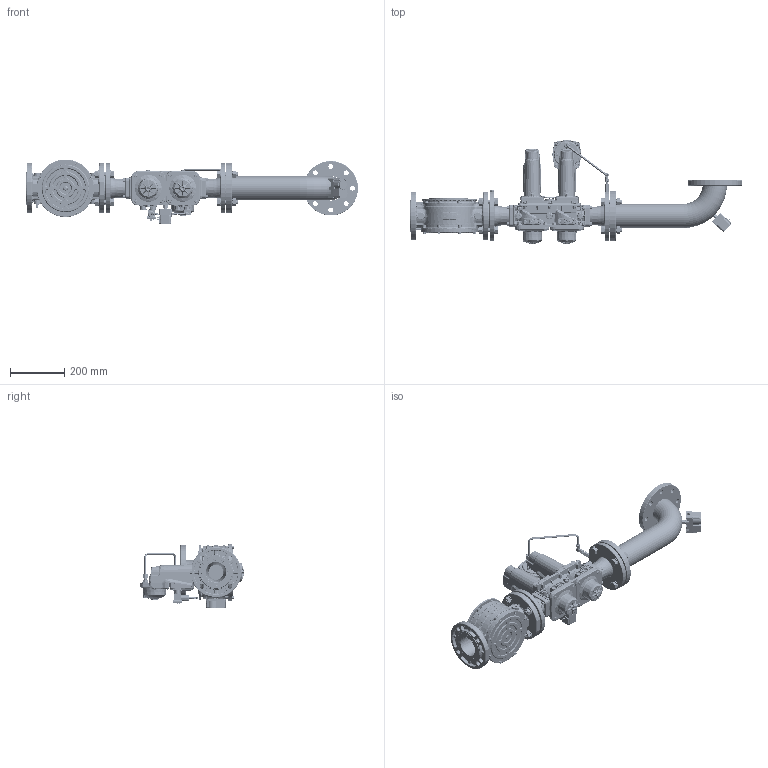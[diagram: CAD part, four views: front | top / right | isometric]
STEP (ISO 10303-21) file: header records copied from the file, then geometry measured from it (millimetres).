
FILE_DESCRIPTION (( 'STEP AP214' ), '1' );
FILE_NAME ('19990666.STEP', '2025-02-20T11:29:42', ( '' ), ( '' ), 'SwSTEP 2.0', 'SolidWorks 2021', '' );
FILE_SCHEMA (( 'AUTOMOTIVE_DESIGN' ));
Length unit declared in the file: millimetre
Products named in the file (1): 19990666
Bounding box: 1219.5 x 381.8 x 238.3 mm (x, y, z)
Volume: 9800905.9 mm3; surface area: 1742359.2 mm2
Topology: 110 solids, 122 shells, 11413 faces, 27396 edges, 16044 vertices
Faces by surface type: bspline 4415, plane 3174, cylinder 2606, cone 660, torus 479, sphere 79
Full cylindrical faces by diameter (mm): 1.5 x2, 2 x4, 3 x1, 3.1 x1, 3.4 x1, 4 x6, 4.3 x4, 4.35 x2, 4.351 x6, 4.5 x1, 4.8 x2, 5 x25, 5.5 x4, 5.9 x1, 6 x11, 6.2 x2, 6.5 x10, 6.8 x8, 7 x1, 8 x35, 8.4 x8, 8.5 x13, 8.566 x2, 8.6 x1, 8.8 x1, 9 x27, 9.5 x1, 9.728 x7, 9.73 x1, 10 x15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
Entity records: 667151 total; most frequent: CARTESIAN_POINT 319810, ORIENTED_EDGE 51222, DIRECTION 36384, EDGE_CURVE 25611, VERTEX_POINT 15696, AXIS2_PLACEMENT_3D 14125, EDGE_LOOP 12977, FACE_OUTER_BOUND 12090
